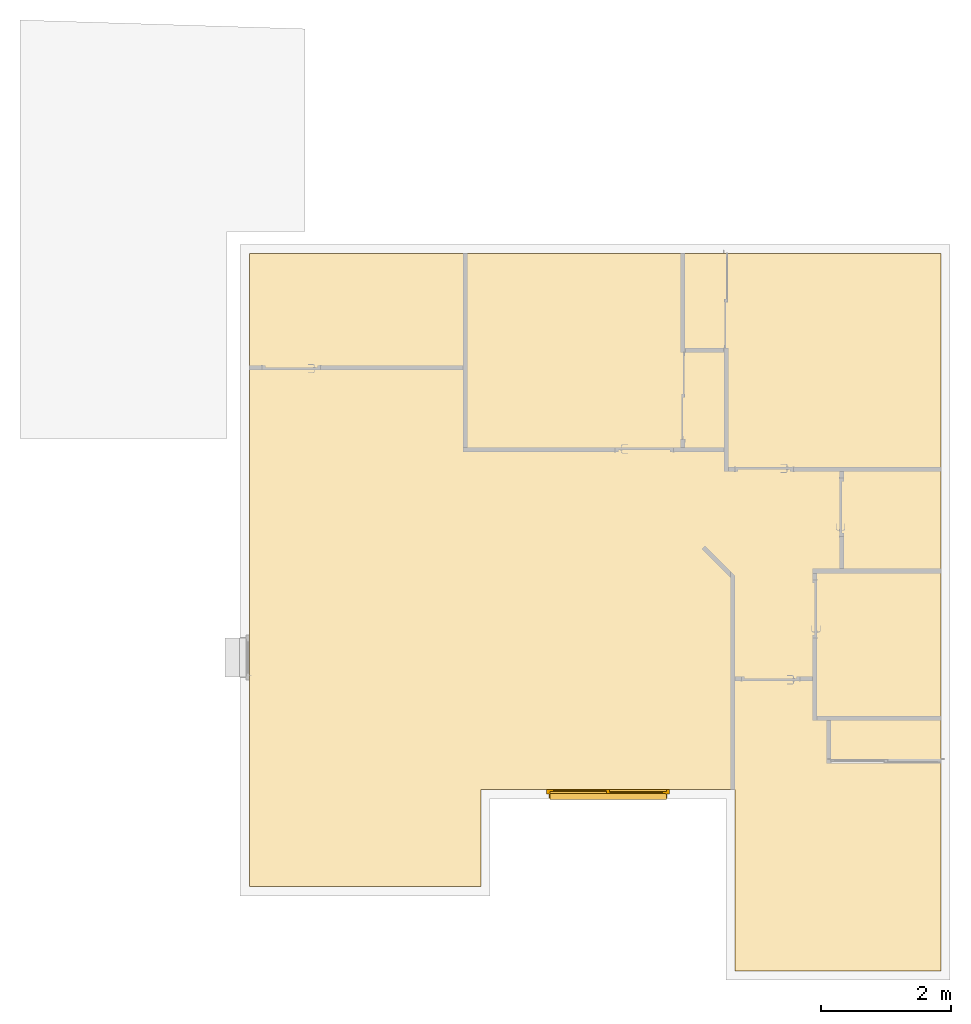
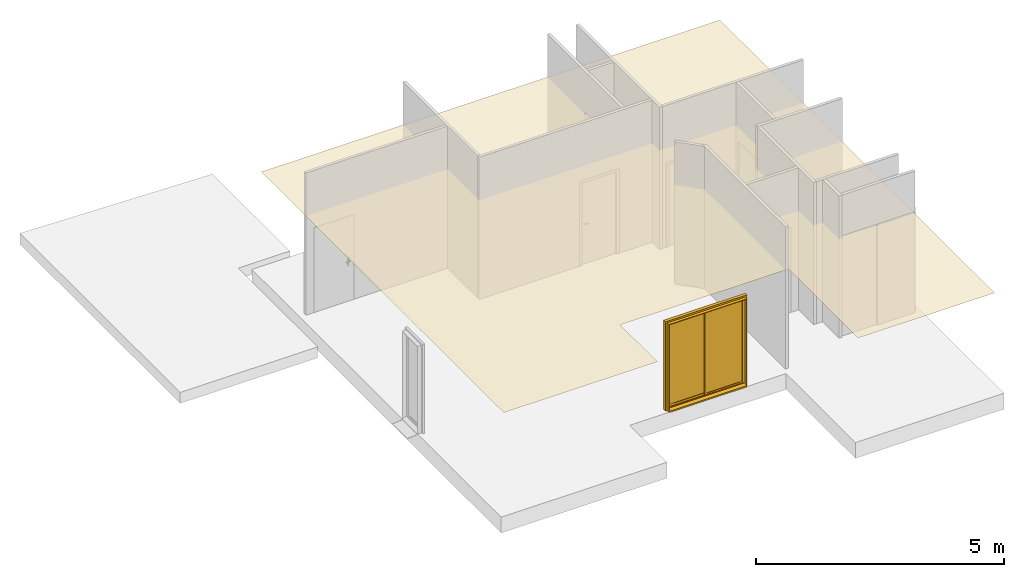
# One storey, part 6 of 7: 1 covering, 1 window.
"""IFC2X3 building model written with IfcOpenShell, lengths in centimetres."""

from ifc_helpers import new_model, entity, si_unit, converted_unit, derived_unit, direction, frame, origin, place, context, subcontext, project, spatial, face_set, faceted_brep, surface_model, source, transform, mapped, material, material_list, type_object, type_shapes, element, save


model = new_model("IFC2X3")

# Units and contexts
model_context = context("Model", 3, precision=0.001, world=origin(), true_north=direction((6.123031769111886e-17, 1.0)))
body_context = subcontext(model_context, "Body", "Model", "MODEL_VIEW")
ifc_project = project(units=[si_unit("LENGTHUNIT", "METRE", prefix="CENTI"), si_unit("AREAUNIT", "SQUARE_METRE"), si_unit("VOLUMEUNIT", "CUBIC_METRE"), converted_unit("PLANEANGLEUNIT", "DEGREE", entity("IfcRatioMeasure", 0.017453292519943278), si_unit("PLANEANGLEUNIT", "RADIAN"), dimensions=[0, 0, 0, 0, 0, 0, 0]), si_unit("MASSUNIT", "GRAM", prefix="KILO"), derived_unit("MASSDENSITYUNIT", [(si_unit("MASSUNIT", "GRAM", prefix="KILO"), 1), (si_unit("LENGTHUNIT", "METRE"), -3)]), derived_unit("MOMENTOFINERTIAUNIT", [(si_unit("LENGTHUNIT", "METRE"), 4)]), si_unit("TIMEUNIT", "SECOND"), si_unit("FREQUENCYUNIT", "HERTZ"), si_unit("THERMODYNAMICTEMPERATUREUNIT", "DEGREE_CELSIUS"), derived_unit("THERMALTRANSMITTANCEUNIT", [(si_unit("MASSUNIT", "GRAM", prefix="KILO"), 1), (si_unit("THERMODYNAMICTEMPERATUREUNIT", "KELVIN"), -1), (si_unit("TIMEUNIT", "SECOND"), -3)]), derived_unit("THERMALCONDUCTANCEUNIT", [(si_unit("MASSUNIT", "GRAM", prefix="KILO"), 1), (si_unit("LENGTHUNIT", "METRE"), 1), (si_unit("THERMODYNAMICTEMPERATUREUNIT", "KELVIN"), -1), (si_unit("TIMEUNIT", "SECOND"), -3)]), derived_unit("VOLUMETRICFLOWRATEUNIT", [(si_unit("LENGTHUNIT", "METRE"), 3), (si_unit("TIMEUNIT", "SECOND"), -1)]), derived_unit("MASSFLOWRATEUNIT", [(si_unit("MASSUNIT", "GRAM", prefix="KILO"), 1), (si_unit("TIMEUNIT", "SECOND"), -1)]), derived_unit("ROTATIONALFREQUENCYUNIT", [(si_unit("TIMEUNIT", "SECOND"), -1)]), si_unit("ELECTRICCURRENTUNIT", "AMPERE"), si_unit("ELECTRICVOLTAGEUNIT", "VOLT"), si_unit("POWERUNIT", "WATT"), si_unit("FORCEUNIT", "NEWTON", prefix="KILO"), si_unit("ILLUMINANCEUNIT", "LUX"), si_unit("LUMINOUSFLUXUNIT", "LUMEN"), si_unit("LUMINOUSINTENSITYUNIT", "CANDELA"), derived_unit("USERDEFINED", [(si_unit("MASSUNIT", "GRAM", prefix="KILO"), -1), (si_unit("LENGTHUNIT", "METRE"), -2), (si_unit("TIMEUNIT", "SECOND"), 3), (si_unit("LUMINOUSFLUXUNIT", "LUMEN"), 1)]), derived_unit("USERDEFINED", [(si_unit("MASSUNIT", "GRAM", prefix="KILO"), 1), (si_unit("LENGTHUNIT", "METRE"), 3), (si_unit("TIMEUNIT", "SECOND"), -3), (si_unit("ELECTRICCURRENTUNIT", "AMPERE"), -2)]), derived_unit("USERDEFINED", [(si_unit("LENGTHUNIT", "METRE"), 2), (si_unit("TIMEUNIT", "SECOND"), -2)]), derived_unit("SOUNDPOWERUNIT", [(si_unit("MASSUNIT", "GRAM", prefix="KILO"), 1), (si_unit("LENGTHUNIT", "METRE"), 2), (si_unit("TIMEUNIT", "SECOND"), -3)]), derived_unit("SOUNDPRESSUREUNIT", [(si_unit("MASSUNIT", "GRAM", prefix="KILO"), 1), (si_unit("LENGTHUNIT", "METRE"), -1), (si_unit("TIMEUNIT", "SECOND"), -2)]), derived_unit("LINEARVELOCITYUNIT", [(si_unit("LENGTHUNIT", "METRE"), 1), (si_unit("TIMEUNIT", "SECOND"), -1)]), si_unit("PRESSUREUNIT", "PASCAL"), derived_unit("USERDEFINED", [(si_unit("LENGTHUNIT", "METRE"), -2), (si_unit("MASSUNIT", "GRAM", prefix="KILO"), 1), (si_unit("TIMEUNIT", "SECOND"), -2)]), derived_unit("LINEARFORCEUNIT", [(si_unit("MASSUNIT", "GRAM", prefix="KILO"), 1), (si_unit("LENGTHUNIT", "METRE"), 1), (si_unit("TIMEUNIT", "SECOND"), -2), (si_unit("LENGTHUNIT", "METRE"), -1)]), derived_unit("PLANARFORCEUNIT", [(si_unit("MASSUNIT", "GRAM", prefix="KILO"), 1), (si_unit("LENGTHUNIT", "METRE"), 1), (si_unit("TIMEUNIT", "SECOND"), -2), (si_unit("LENGTHUNIT", "METRE"), -2)]), derived_unit("SPECIFICHEATCAPACITYUNIT", [(si_unit("LENGTHUNIT", "METRE"), 2), (si_unit("TIMEUNIT", "SECOND"), -2), (si_unit("THERMODYNAMICTEMPERATUREUNIT", "KELVIN"), -1)]), derived_unit("VAPORPERMEABILITYUNIT", [(si_unit("TIMEUNIT", "SECOND"), 1), (si_unit("LENGTHUNIT", "METRE"), -1)]), derived_unit("DYNAMICVISCOSITYUNIT", [(si_unit("MASSUNIT", "GRAM", prefix="KILO"), 1), (si_unit("LENGTHUNIT", "METRE"), -1), (si_unit("TIMEUNIT", "SECOND"), -1)]), derived_unit("THERMALEXPANSIONCOEFFICIENTUNIT", [(si_unit("THERMODYNAMICTEMPERATUREUNIT", "KELVIN"), -1)])], contexts=[model_context])

# Site, building, storey
site_placement = place(None, origin())
site = spatial("IfcSite", under=ifc_project, at=site_placement, Name="Default", CompositionType="ELEMENT")
building_placement = place(site_placement, origin())
building = spatial("IfcBuilding", under=site, at=building_placement, CompositionType="ELEMENT")
storey_placement = place(building_placement, origin())
storey = spatial("IfcBuildingStorey", under=building, at=storey_placement, Name="1_Rez-de-chaussée", CompositionType="ELEMENT", Elevation=0.0)

# Window
ifc_material_1 = material(Name="Fenêtre - Vitrage")
ifc_material_2 = material(Name="Fenêtre - Cadre")
ifc_material_list = material_list([ifc_material_1, ifc_material_2])
window_style = type_object("IfcWindowStyle", Name="PF 2 vantaux coulissants:180 x 215 cm 2", ConstructionType="NOTDEFINED", OperationType="DOUBLE_PANEL_VERTICAL", ParameterTakesPrecedence=False, Sizeable=False, material=ifc_material_list)
shared_shape = source(origin(), body_context, "Body", "Brep", [
    faceted_brep([(92.50000000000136, 37.100000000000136, 217.3858371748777), (92.50000000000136, 37.100000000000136, 17.38583717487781), (10.0, 37.10000000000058, 17.38583717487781), (10.0, 37.10000000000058, 217.3858371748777), (92.50000000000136, 35.90000000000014, 217.3858371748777), (92.50000000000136, 35.90000000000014, 17.38583717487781), (10.0, 35.90000000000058, 17.38583717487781), (10.0, 35.90000000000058, 217.3858371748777)], [[[0, 1, 2, 3]], [[1, 0, 4, 5]], [[2, 1, 5, 6]], [[3, 2, 6, 7]], [[4, 7, 6, 5]], [[0, 3, 7, 4]]]),
    faceted_brep([(97.50000000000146, 38.0, 222.38583717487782), (97.50000000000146, 35.0, 222.38583717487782), (97.50000000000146, 35.0, 12.385837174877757), (97.50000000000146, 38.0, 12.38583717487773), (5.0, 35.0, 12.385837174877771), (5.0, 38.0, 12.385837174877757), (5.0, 35.0, 222.38583717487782), (10.0, 35.0, 17.385837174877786), (10.0, 35.0, 217.38583717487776), (92.5000000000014, 35.0, 217.38583717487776), (92.50000000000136, 35.0, 17.38583717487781), (5.0, 38.0, 222.38583717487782), (92.5000000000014, 38.0, 17.385837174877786), (92.50000000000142, 38.0, 217.38583717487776), (10.0, 38.0, 217.38583717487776), (10.0, 38.0, 17.38583717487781)], [[[0, 1, 2, 3]], [[3, 2, 4, 5]], [[2, 1, 6, 4], [7, 8, 9, 10]], [[5, 4, 6, 11]], [[5, 11, 0, 3], [12, 13, 14, 15]], [[9, 13, 12, 10]], [[10, 12, 15, 7]], [[7, 15, 14, 8]], [[11, 6, 1, 0]], [[8, 14, 13, 9]]]),
    faceted_brep([(97.50000000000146, 34.10000000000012, 17.385837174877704), (97.50000000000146, 34.10000000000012, 217.38583717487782), (180.0, 34.09999999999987, 217.38583717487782), (180.0, 34.09999999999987, 17.385837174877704), (97.50000000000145, 32.90000000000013, 17.385837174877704), (97.50000000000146, 32.90000000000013, 217.38583717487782), (180.0, 32.89999999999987, 217.38583717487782), (180.0, 32.89999999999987, 17.385837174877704)], [[[0, 1, 2, 3]], [[1, 0, 4, 5]], [[3, 2, 6, 7]], [[0, 3, 7, 4]], [[4, 7, 6, 5]], [[2, 1, 5, 6]]]),
    faceted_brep([(97.50000000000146, 35.0, 217.38583717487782), (97.50000000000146, 32.0, 217.38583717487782), (97.50000000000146, 32.0, 17.385837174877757), (97.50000000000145, 35.0, 17.385837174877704), (180.0, 32.0, 17.385837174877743), (180.0, 35.0, 17.385837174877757), (180.0, 32.0, 217.38583717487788), (185.0, 32.0, 12.385837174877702), (185.0, 32.0, 222.38583717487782), (92.50000000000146, 32.0, 222.38583717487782), (92.50000000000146, 32.0, 12.385837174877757), (180.0, 35.0, 217.38583717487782), (92.50000000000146, 35.0, 12.38583717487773), (92.50000000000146, 35.0, 222.38583717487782), (185.0, 35.0, 222.38583717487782), (185.0, 35.0, 12.385837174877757)], [[[0, 1, 2, 3]], [[3, 2, 4, 5]], [[2, 1, 6, 4], [7, 8, 9, 10]], [[5, 4, 6, 11]], [[5, 11, 0, 3], [12, 13, 14, 15]], [[9, 13, 12, 10]], [[10, 12, 15, 7]], [[7, 15, 14, 8]], [[11, 6, 1, 0]], [[8, 14, 13, 9]]], outer=[[True], [True], [False, True], [True], [False, True], [True], [True], [True], [True], [True]]),
    faceted_brep([(0.0, 32.0, 7.38583717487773), (0.0, 39.0, 7.38583717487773), (5.0, 39.0, 7.38583717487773), (5.0, 46.0, 7.38583717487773), (185.0, 46.0, 7.385837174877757), (185.0, 39.0, 7.38583717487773), (190.0, 39.0, 7.38583717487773), (190.0, 32.0, 7.38583717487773), (0.0, 32.0, 227.38583717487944), (0.0, 39.0, 227.38583717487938), (190.0, 39.0, 227.38583717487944), (185.0, 39.0, 12.395248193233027), (5.0, 39.0, 12.395248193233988), (6.500000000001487, 39.0, 220.8858371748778), (6.500000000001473, 39.0, 13.885837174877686), (183.50000000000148, 39.0, 13.885837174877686), (183.50000000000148, 39.0, 220.88583717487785), (5.0, 47.0, 10.25165465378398), (5.0, 47.0, 6.885837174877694), (5.0, 46.0, 6.885837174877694), (185.0, 46.0, 6.885837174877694), (185.0, 47.0, 6.885837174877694), (185.0, 47.0, 10.25165465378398), (190.0, 32.0, 227.38583717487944), (185.0, 32.0, 222.38583717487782), (185.0, 32.0, 12.38583717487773), (5.0, 32.0, 12.385837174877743), (5.0, 32.0, 222.38583717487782), (6.500000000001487, 38.0, 220.8858371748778), (6.500000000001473, 38.0, 13.885837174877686), (183.50000000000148, 38.0, 13.885837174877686), (183.50000000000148, 38.0, 220.88583717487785), (185.0, 38.0, 222.38583717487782), (5.0, 38.0, 222.38583717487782), (5.0, 38.0, 12.38583717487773), (185.0, 38.0, 12.38583717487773)], [[[0, 1, 2, 3, 4, 5, 6, 7]], [[1, 0, 8, 9]], [[1, 9, 10, 6, 5, 11, 12, 2], [13, 14, 15, 16]], [[12, 17, 18, 19, 3, 2]], [[3, 19, 20, 4]], [[4, 20, 21, 22, 11, 5]], [[6, 10, 23, 7]], [[0, 7, 23, 8], [24, 25, 26, 27]], [[13, 28, 29, 14]], [[29, 30, 15, 14]], [[31, 16, 15, 30]], [[17, 12, 11, 22]], [[28, 31, 30, 29], [32, 33, 34, 35]], [[34, 33, 27, 26]], [[26, 25, 35, 34]], [[24, 32, 35, 25]], [[18, 17, 22, 21]], [[19, 18, 21, 20]], [[13, 16, 31, 28]], [[10, 9, 8, 23]], [[33, 32, 24, 27]]], outer=[[True], [True], [True, False], [True], [True], [True], [True], [True, False], [True], [True], [True], [True], [False, True], [True], [True], [True], [True], [True], [True], [True], [True]]),
    faceted_brep([(5.0, 46.0, 7.38583717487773), (5.0, 39.0, 7.38583717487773), (4.0, 39.0, 7.38583717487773), (4.0, 46.0, 7.38583717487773), (5.0, 46.0, 222.38583717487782), (5.0, 39.0, 222.38583717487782), (185.0, 39.0, 222.38583717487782), (185.0, 39.0, 7.385837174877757), (186.0, 39.0, 7.38583717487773), (186.0, 39.0, 223.38583717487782), (4.0, 39.0, 223.38583717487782), (4.0, 46.0, 223.38583717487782), (186.0, 46.0, 223.38583717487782), (186.0, 46.0, 7.385837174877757), (185.0, 46.0, 7.38583717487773), (185.0, 46.0, 222.38583717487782)], [[[0, 1, 2, 3]], [[1, 0, 4, 5]], [[2, 1, 5, 6, 7, 8, 9, 10]], [[3, 2, 10, 11]], [[0, 3, 11, 12, 13, 14, 15, 4]], [[6, 15, 14, 7]], [[14, 13, 8, 7]], [[12, 9, 8, 13]], [[5, 4, 15, 6]], [[11, 10, 9, 12]]]),
])
type_shapes(window_style, [shared_shape])
window_placement = place(storey_placement, frame((-37.068443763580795, -453.353354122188, -7.38583717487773), z_axis=(0.0, 0.0, 1.0), x_axis=(-1.0, 0.0, 0.0)))
element("IfcWindow", 1, at=window_placement, inside=storey, type_object=window_style, material=ifc_material_list, Name="PF 2 vantaux coulissants:180 x 215 cm 2", ObjectType="PF 2 vantaux coulissants:180 x 215 cm 2", OverallHeight=224.0225016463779, OverallWidth=190.00000000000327, context=body_context, shape_type="MappedRepresentation", body=[
    mapped(shared_shape, transform((0.0, 0.0, 0.0), scale=1.0)),
])

# Covering
covering_type = type_object("IfcCoveringType", Name="Plafond de base:Plafond 600 mm x 1200 mm", PredefinedType="CEILING")
covering_placement = place(storey_placement, frame((-686.0684437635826, -765.3533541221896, 243.8)))
element("IfcCovering", 2, at=covering_placement, inside=storey, type_object=covering_type, Name="Plafond de base:Plafond 600 mm x 1200 mm", ObjectType="Plafond de base:Plafond 600 mm x 1200 mm", PredefinedType="CEILING", context=body_context, shape_type="SurfaceModel", body=[
    surface_model("IfcFaceBasedSurfaceModel", [(1068.0, 1108.0, 0.0), (0.0, 1108.0, 0.0), (0.0, 130.0, 0.0), (358.0, 130.0, 0.0), (358.0, 280.0, 0.0), (750.0, 280.0, 0.0), (750.0, 0.0, 0.0), (1068.0, 0.0, 0.0)], [face_set([[[0, 1, 2, 3, 4, 5, 6, 7]]])]),
])

save(model, "model.ifc")
